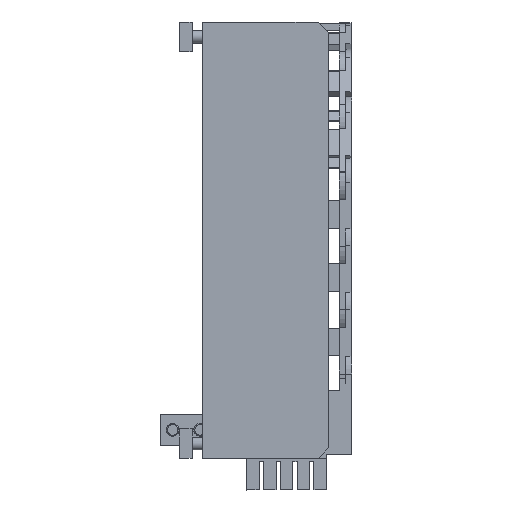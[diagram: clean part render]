
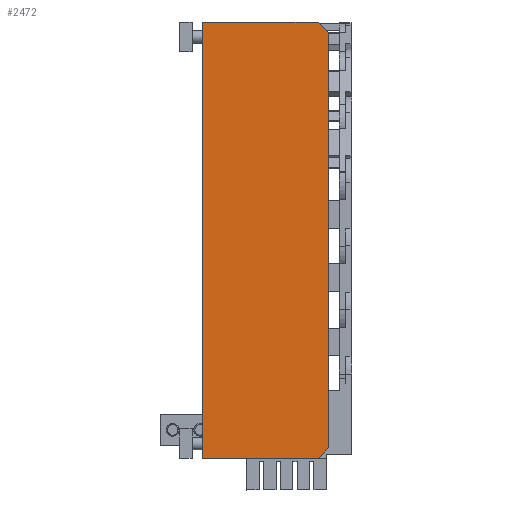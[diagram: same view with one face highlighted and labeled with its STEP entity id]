
A CAD part, front view. The second image highlights one B-rep face of the part: STEP entity #2472.
In plain terms, the highlighted planar face has unit normal (0, -1, 0).
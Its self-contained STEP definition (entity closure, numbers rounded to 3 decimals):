
#2472 = ADVANCED_FACE( '', ( #5532 ), #5533, .T. );
#5532 = FACE_OUTER_BOUND( '', #9283, .T. );
#5533 = PLANE( '', #9284 );
#9283 = EDGE_LOOP( '', ( #16636, #16637, #16638, #16639, #16640, #16641 ) );
#9284 = AXIS2_PLACEMENT_3D( '', #16642, #16643, #16644 );
#16636 = ORIENTED_EDGE( '', *, *, #25427, .F. );
#16637 = ORIENTED_EDGE( '', *, *, #25428, .T. );
#16638 = ORIENTED_EDGE( '', *, *, #25429, .F. );
#16639 = ORIENTED_EDGE( '', *, *, #23764, .T. );
#16640 = ORIENTED_EDGE( '', *, *, #25430, .T. );
#16641 = ORIENTED_EDGE( '', *, *, #22506, .T. );
#16642 = CARTESIAN_POINT( '', ( 60., 0., 207. ) );
#16643 = DIRECTION( '', ( 0., -1., 0. ) );
#16644 = DIRECTION( '', ( 0., 0., -1. ) );
#22506 = EDGE_CURVE( '', #27008, #27005, #27009, .T. );
#23764 = EDGE_CURVE( '', #29210, #29208, #29211, .F. );
#25427 = EDGE_CURVE( '', #31757, #27005, #31758, .F. );
#25428 = EDGE_CURVE( '', #31757, #31759, #31760, .T. );
#25429 = EDGE_CURVE( '', #29210, #31759, #31761, .T. );
#25430 = EDGE_CURVE( '', #29208, #27008, #31762, .T. );
#27005 = VERTEX_POINT( '', #33686 );
#27008 = VERTEX_POINT( '', #33690 );
#27009 = LINE( '', #33691, #33692 );
#29208 = VERTEX_POINT( '', #36707 );
#29210 = VERTEX_POINT( '', #36710 );
#29211 = LINE( '', #36711, #36712 );
#31757 = VERTEX_POINT( '', #40259 );
#31758 = LINE( '', #40260, #40261 );
#31759 = VERTEX_POINT( '', #40262 );
#31760 = LINE( '', #40263, #40264 );
#31761 = LINE( '', #40265, #40266 );
#31762 = LINE( '', #40267, #40268 );
#33686 = CARTESIAN_POINT( '', ( 0., 0., 0. ) );
#33690 = CARTESIAN_POINT( '', ( 0., 0., 207. ) );
#33691 = CARTESIAN_POINT( '', ( 0., 0., 207. ) );
#33692 = VECTOR( '', #42820, 1000. );
#36707 = CARTESIAN_POINT( '', ( 55., 0., 207. ) );
#36710 = CARTESIAN_POINT( '', ( 60., 0., 202. ) );
#36711 = CARTESIAN_POINT( '', ( 57.5, 0., 204.5 ) );
#36712 = VECTOR( '', #44316, 1000. );
#40259 = CARTESIAN_POINT( '', ( 55., 0., 0. ) );
#40260 = CARTESIAN_POINT( '', ( 3., 0., 0. ) );
#40261 = VECTOR( '', #46251, 1000. );
#40262 = CARTESIAN_POINT( '', ( 60., 0., 5. ) );
#40263 = CARTESIAN_POINT( '', ( 161., 0., 106. ) );
#40264 = VECTOR( '', #46252, 1000. );
#40265 = CARTESIAN_POINT( '', ( 60., 0., 207. ) );
#40266 = VECTOR( '', #46253, 1000. );
#40267 = CARTESIAN_POINT( '', ( 60., 0., 207. ) );
#40268 = VECTOR( '', #46254, 1000. );
#42820 = DIRECTION( '', ( 0., 0., -1. ) );
#44316 = DIRECTION( '', ( 0.707, 0., -0.707 ) );
#46251 = DIRECTION( '', ( 1., 0., 0. ) );
#46252 = DIRECTION( '', ( 0.707, 0., 0.707 ) );
#46253 = DIRECTION( '', ( 0., 0., -1. ) );
#46254 = DIRECTION( '', ( -1., 0., 0. ) );
